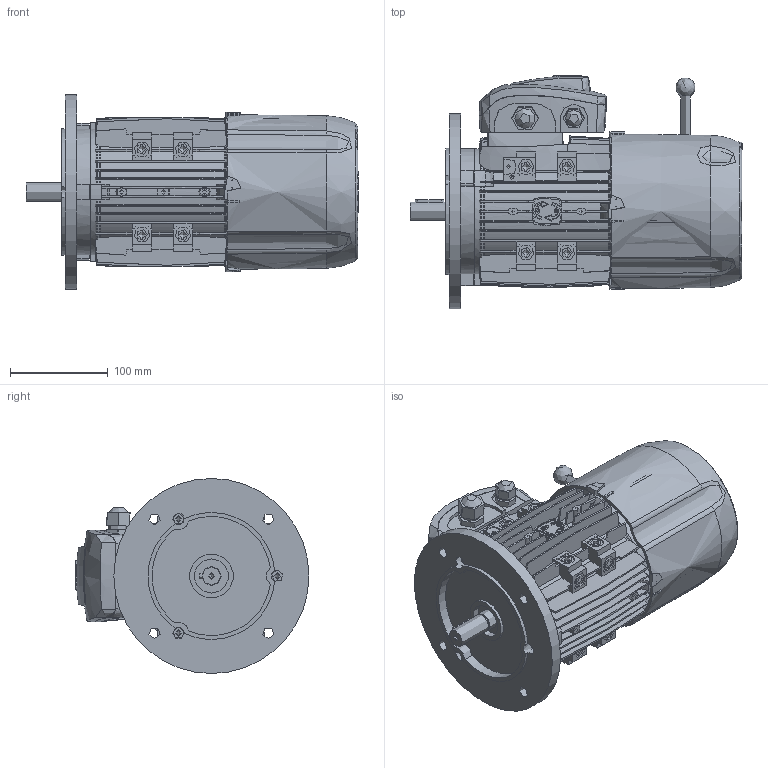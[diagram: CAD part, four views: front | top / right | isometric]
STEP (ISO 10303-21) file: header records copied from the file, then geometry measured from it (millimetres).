
FILE_DESCRIPTION((''),'2;1');
FILE_NAME('D:\htdocs\motive\source_step\M80.stp','2014-09-02T16:43:20',('ing.Casini'),(''),'Autodesk Inventor 2010','Autodesk Inventor 2010','');
FILE_SCHEMA(('AUTOMOTIVE_DESIGN { 1 0 10303 214 1 1 1 1 }'));
Length unit declared in the file: millimetre
Products named in the file (6): M80 Lighter motor Assly_14.08; BODY80; B580; SH80; TBOXATDC63_80; FCVATDC80
Assembly tree (5 placements, depth 2):
  M80 Lighter motor Assly_14.08
    BODY80
    B580
    SH80
    TBOXATDC63_80
    FCVATDC80
Bounding box: 340.35 x 239.84 x 200 mm (x, y, z)
Volume: 2900624.4 mm3; surface area: 610803.9 mm2
Topology: 8 solids, 8 shells, 2205 faces, 6243 edges, 4150 vertices
Faces by surface type: plane 857, bspline 463, cylinder 347, cone 307, torus 230, sphere 1
Full cylindrical faces by diameter (mm): 2.5 x4, 4.2 x15, 5 x14, 5.4 x2, 6.8 x12, 7 x3, 10 x1, 10.418 x1, 12 x7, 16 x1, 18 x1, 19 x1, 20 x3, 25 x1, 35 x1, 40 x1, 45 x1, 47 x1, 116 x1, 121 x1, 125 x1, 200 x1
Entity records: 109006 total; most frequent: CARTESIAN_POINT 56526, ORIENTED_EDGE 12102, DIRECTION 9041, EDGE_CURVE 6051, VERTEX_POINT 4102, AXIS2_PLACEMENT_3D 3365, EDGE_LOOP 2491, VECTOR 2311
